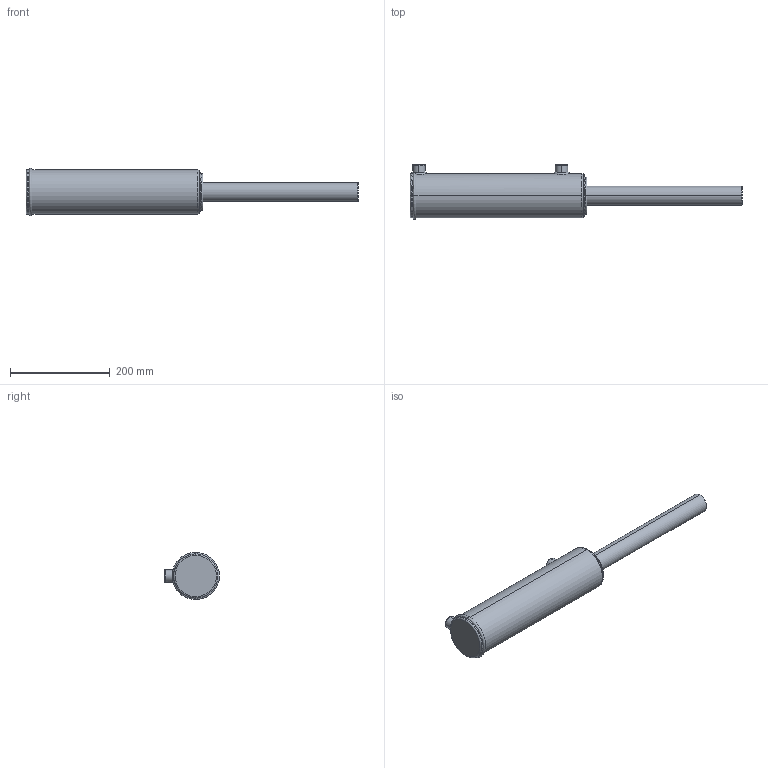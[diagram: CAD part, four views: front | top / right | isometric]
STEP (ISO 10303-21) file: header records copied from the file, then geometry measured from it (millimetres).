
FILE_DESCRIPTION (( 'STEP AP203' ), '1' );
FILE_NAME ('BL300150x254 (10) extended.STEP', '2014-11-23T22:39:01', ( '' ), ( '' ), 'SwSTEP 2.0', 'SolidWorks 2014', '' );
FILE_SCHEMA (( 'CONFIG_CONTROL_DESIGN' ));
Length unit declared in the file: millimetre
Products named in the file (3): BL body 3_3x10; Spare_3x10; BL300150x254 (10) extended
Assembly tree (2 placements, depth 2):
  BL300150x254 (10) extended
    BL body 3_3x10
    Spare_3x10
Bounding box: 666 x 109.9 x 94.9 mm (x, y, z)
Volume: 2378927.3 mm3; surface area: 197629.3 mm2
Topology: 2 solids, 2 shells, 88 faces, 205 edges, 126 vertices
Faces by surface type: cylinder 32, plane 20, torus 17, bspline 11, cone 8
Entity records: 5992 total; most frequent: CARTESIAN_POINT 3745, DIRECTION 420, ORIENTED_EDGE 402, EDGE_CURVE 201, AXIS2_PLACEMENT_3D 181, VERTEX_POINT 126, EDGE_LOOP 101, CIRCLE 99
